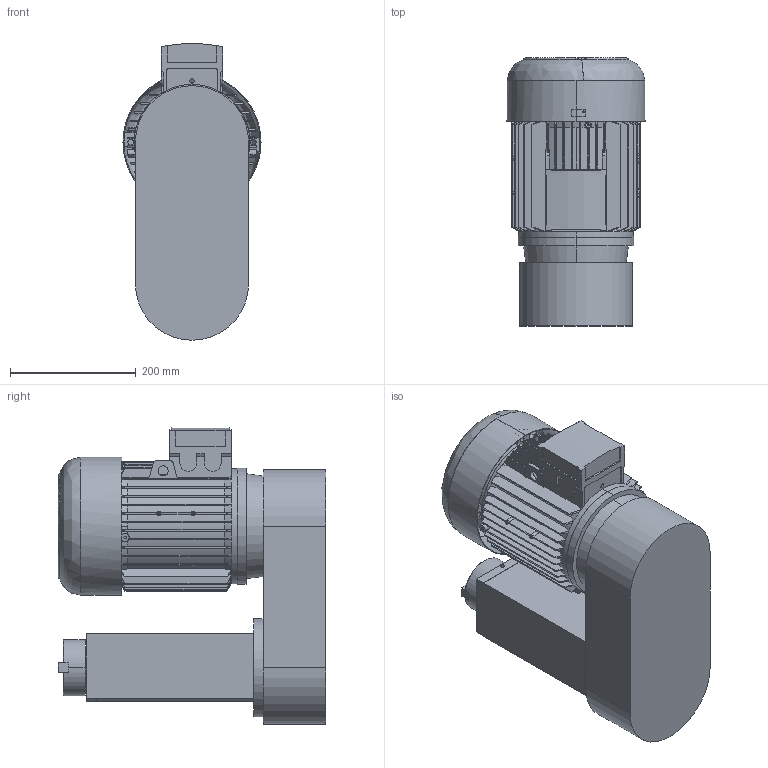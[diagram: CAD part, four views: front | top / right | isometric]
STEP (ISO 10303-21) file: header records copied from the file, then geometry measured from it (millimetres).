
FILE_DESCRIPTION (( 'STEP AP214' ), '1' );
FILE_NAME ('BR11-ISO40-IEC112-fram.STEP', '2025-09-17T09:45:13', ( '' ), ( '' ), 'SwSTEP 2.0', 'SolidWorks 2014', '' );
FILE_SCHEMA (( 'AUTOMOTIVE_DESIGN' ));
Length unit declared in the file: millimetre
Products named in the file (1): BR11-ISO40-IEC112-fram
Bounding box: 219.5 x 426 x 471.64 mm (x, y, z)
Volume: 12038170.1 mm3; surface area: 1281470.6 mm2
Topology: 7 solids, 7 shells, 860 faces, 2208 edges, 1389 vertices
Faces by surface type: cylinder 310, plane 304, cone 238, bspline 8
Entity records: 39149 total; most frequent: CARTESIAN_POINT 9609, ORIENTED_EDGE 4328, DIRECTION 3942, EDGE_CURVE 2164, AXIS2_PLACEMENT_3D 1544, VERTEX_POINT 1389, EDGE_LOOP 953, UNCERTAINTY_MEASURE_WITH_UNIT 869
